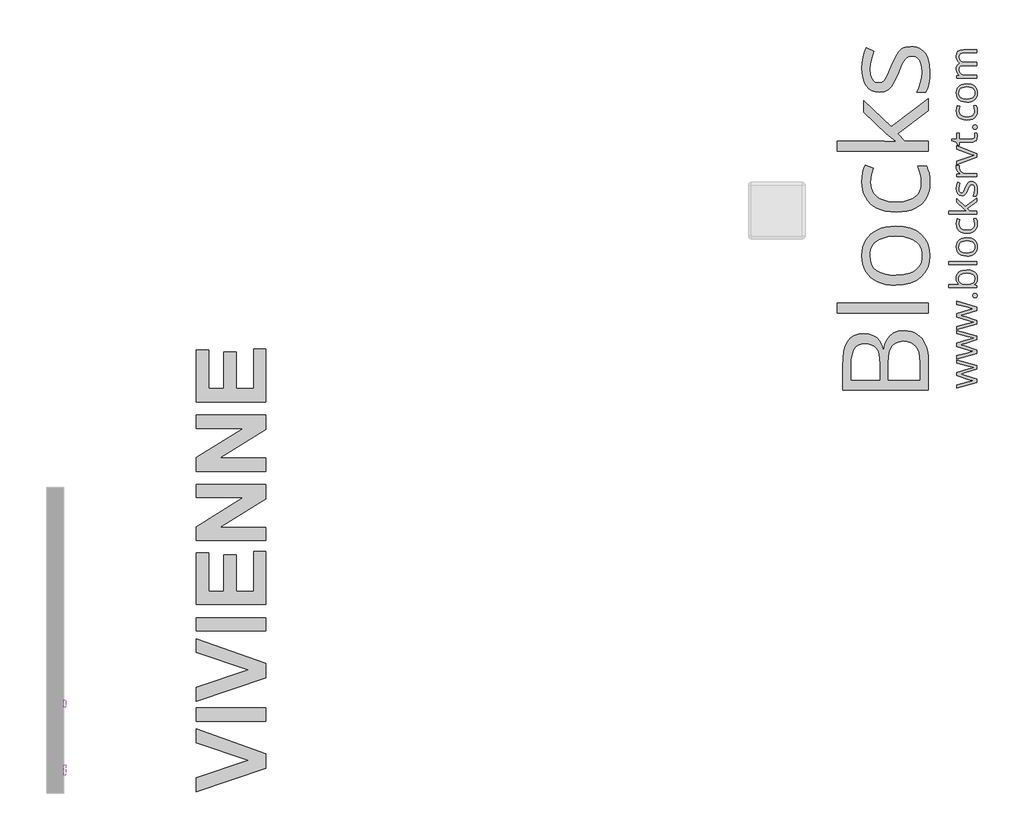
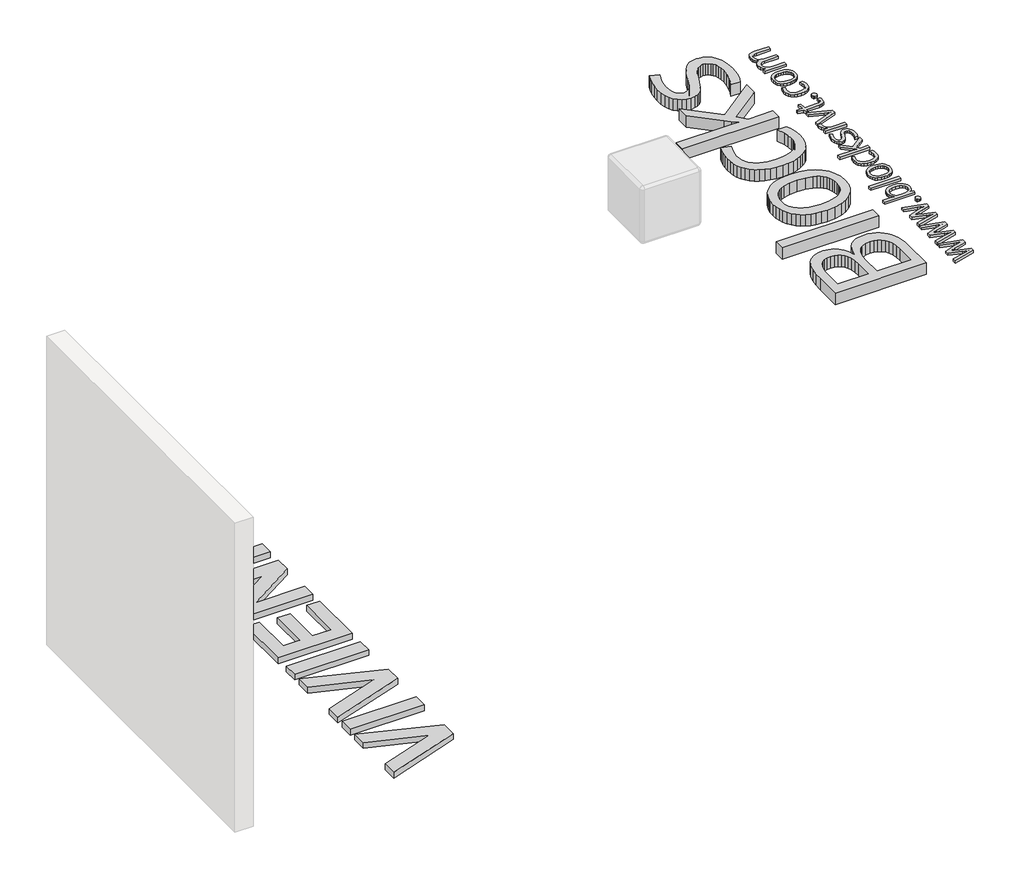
# One storey, part 6 of 6: 5 proxies.
"""IFC4 building model written with IfcOpenShell, lengths in millimetres."""

from ifc_helpers import new_model, si_unit, frame, origin, origin_with_axes, place, context, project, spatial, polyline, outline, extrude, element, save

model = new_model("IFC4")

# Units and contexts
model_context = context("Model", 3, world=origin())
ifc_project = project(units=[si_unit("LENGTHUNIT", "METRE", prefix="MILLI")], contexts=[model_context])

# Site, building, storey
site = spatial("IfcSite", under=ifc_project)
building = spatial("IfcBuilding", under=site)
storey = spatial("IfcBuildingStorey", under=building, Name="PORTOBELLO - SHOWROOM", Elevation=0.0)

# Proxies
placement = place(None, origin())
element("IfcBuildingElementProxy", 1, Name="10mm Arial", ObjectType="10mm Arial", at=placement, inside=storey, context=model_context, shape_type="SweptSolid", body=[
    extrude(outline(polyline([(1674.1140682, 2552.8620929), (1634.1375581, 2653.318403), (1647.5775136, 2653.318403), (1674.3347974, 2580.9437518), (1679.7549255, 2564.6343167), (1685.1014772, 2580.9437518), (1711.9323373, 2653.318403), (1725.3722929, 2653.318403), (1687.0880399, 2552.8620929), (1674.1140682, 2552.8620929)])), frame((-9940.3623775, 0.0, 0.0), z_axis=(1.0, 0.0, 0.0), x_axis=(0.0, 1.0, 0.0)), (0.0, 0.0, 1.0), 20.0),
    extrude(outline(polyline([(-9920.3623775, 1748.0338238), (-9920.3623775, 1735.476785), (-9940.3623775, 1735.476785), (-9940.3623775, 1748.0338238), (-9920.3623775, 1748.0338238)])), frame((0.0, 0.0, 2552.8620929), z_axis=(0.0, 0.0, 1.0), x_axis=(1.0, 0.0, 0.0)), (0.0, 0.0, 1.0), 73.7726028),
    extrude(outline(polyline([(-9920.3623775, 1748.0338238), (-9920.3623775, 1735.476785), (-9940.3623775, 1735.476785), (-9940.3623775, 1748.0338238), (-9920.3623775, 1748.0338238)])), frame((0.0, 0.0, 2640.7613643), z_axis=(0.0, 0.0, 1.0), x_axis=(1.0, 0.0, 0.0)), (0.0, 0.0, 1.0), 12.5570388),
    extrude(outline(polyline([(1784.9691761, 2552.8620929), (1759.0212327, 2626.6346956), (1772.3140355, 2626.6346956), (1788.0348594, 2582.4398053), (1792.7682744, 2567.5773727), (1797.4035875, 2581.6059394), (1813.2225133, 2626.6346956), (1826.5153161, 2626.6346956), (1800.8862038, 2552.8620929), (1784.9691761, 2552.8620929)])), frame((-9940.3623775, 0.0, 0.0), z_axis=(1.0, 0.0, 0.0), x_axis=(0.0, 1.0, 0.0)), (0.0, 0.0, 1.0), 20.0),
    extrude(outline(polyline([(-9920.3623775, 1850.0597638), (-9920.3623775, 1837.502725), (-9940.3623775, 1837.502725), (-9940.3623775, 1850.0597638), (-9920.3623775, 1850.0597638)])), frame((0.0, 0.0, 2640.7613643), z_axis=(0.0, 0.0, 1.0), x_axis=(1.0, 0.0, 0.0)), (0.0, 0.0, 1.0), 12.5570388),
    extrude(outline(polyline([(-9920.3623775, 1850.0597638), (-9920.3623775, 1837.502725), (-9940.3623775, 1837.502725), (-9940.3623775, 1850.0597638), (-9920.3623775, 1850.0597638)])), frame((0.0, 0.0, 2552.8620929), z_axis=(0.0, 0.0, 1.0), x_axis=(1.0, 0.0, 0.0)), (0.0, 0.0, 1.0), 73.7726028),
    extrude(outline(polyline([(1920.5459541, 2574.8369107), (1932.8577382, 2573.2672809), (1928.4216944, 2563.9905232), (1921.3430317, 2557.0559476), (1911.7811655, 2552.7333342), (1899.8955114, 2551.292463), (1885.1618375, 2553.7787322), (1873.8249407, 2561.2375396), (1866.5960595, 2573.1845074), (1864.1864324, 2589.1352576), (1866.6205849, 2605.6225024), (1873.9230425, 2617.9526806), (1885.1066552, 2625.6414143), (1899.1842729, 2628.2043255), (1912.8234979, 2625.6475456), (1923.722002, 2617.977206), (1930.8681097, 2605.6715533), (1933.2501456, 2589.208834), (1933.1765692, 2585.8243196), (1876.7434712, 2585.8243196), (1878.9170406, 2576.4249347), (1883.966221, 2569.5148845), (1891.2533502, 2565.2658475), (1900.1407661, 2563.8495018), (1912.4525502, 2566.4737267), (1920.5459541, 2574.8369107)]), holes=[polyline([(1876.7434712, 2598.3813584), (1920.6931069, 2598.3813584), (1915.6653863, 2609.7611748), (1908.3445346, 2614.1757587), (1899.1352219, 2615.6472867), (1883.6719154, 2610.9506599), (1878.806676, 2605.4600211), (1876.7434712, 2598.3813584)])]), frame((-9940.3623775, 0.0, 0.0), z_axis=(1.0, 0.0, 0.0), x_axis=(0.0, 1.0, 0.0)), (0.0, 0.0, 1.0), 20.0),
    extrude(outline(polyline([(1945.8071844, 2552.8620929), (1945.8071844, 2626.6346956), (1958.3642232, 2626.6346956), (1958.3642232, 2616.3339998), (1967.9659432, 2625.2367441), (1981.074805, 2628.2043255), (1992.932868, 2625.8130925), (2001.0262719, 2619.5345731), (2004.790931, 2610.3007351), (2005.4531186, 2598.1606292), (2005.4531186, 2552.8620929), (1992.8960798, 2552.8620929), (1992.8960798, 2596.468372), (1991.4490773, 2607.5784083), (1986.3355175, 2613.4522575), (1977.7148161, 2615.6472867), (1964.0909196, 2610.717668), (1959.7958973, 2603.5746259), (1958.3642232, 2592.0047372), (1958.3642232, 2552.8620929), (1945.8071844, 2552.8620929)])), frame((-9940.3623775, 0.0, 0.0), z_axis=(1.0, 0.0, 0.0), x_axis=(0.0, 1.0, 0.0)), (0.0, 0.0, 1.0), 20.0),
    extrude(outline(polyline([(2022.7190469, 2552.8620929), (2022.7190469, 2626.6346956), (2035.2760856, 2626.6346956), (2035.2760856, 2616.3339998), (2044.8778057, 2625.2367441), (2057.9866675, 2628.2043255), (2069.8447304, 2625.8130925), (2077.9381343, 2619.5345731), (2081.7027934, 2610.3007351), (2082.364981, 2598.1606292), (2082.364981, 2552.8620929), (2069.8079422, 2552.8620929), (2069.8079422, 2596.468372), (2068.3609397, 2607.5784083), (2063.24738, 2613.4522575), (2054.6266786, 2615.6472867), (2041.002782, 2610.717668), (2036.7077597, 2603.5746259), (2035.2760856, 2592.0047372), (2035.2760856, 2552.8620929), (2022.7190469, 2552.8620929)])), frame((-9940.3623775, 0.0, 0.0), z_axis=(1.0, 0.0, 0.0), x_axis=(0.0, 1.0, 0.0)), (0.0, 0.0, 1.0), 20.0),
    extrude(outline(polyline([(2151.2815414, 2574.8369107), (2163.5933255, 2573.2672809), (2159.1572818, 2563.9905232), (2152.0786191, 2557.0559476), (2142.5167529, 2552.7333342), (2130.6310988, 2551.292463), (2115.8974249, 2553.7787322), (2104.5605281, 2561.2375396), (2097.3316468, 2573.1845074), (2094.9220198, 2589.1352576), (2097.3561723, 2605.6225024), (2104.6586299, 2617.9526806), (2115.8422426, 2625.6414143), (2129.9198603, 2628.2043255), (2143.5590852, 2625.6475456), (2154.4575893, 2617.977206), (2161.6036971, 2605.6715533), (2163.985733, 2589.208834), (2163.9121566, 2585.8243196), (2107.4790585, 2585.8243196), (2109.652628, 2576.4249347), (2114.7018084, 2569.5148845), (2121.9889376, 2565.2658475), (2130.8763534, 2563.8495018), (2143.1881375, 2566.4737267), (2151.2815414, 2574.8369107)]), holes=[polyline([(2107.4790585, 2598.3813584), (2151.4286942, 2598.3813584), (2146.4009736, 2609.7611748), (2139.0801219, 2614.1757587), (2129.8708093, 2615.6472867), (2114.4075028, 2610.9506599), (2109.5422634, 2605.4600211), (2107.4790585, 2598.3813584)])]), frame((-9940.3623775, 0.0, 0.0), z_axis=(1.0, 0.0, 0.0), x_axis=(0.0, 1.0, 0.0)), (0.0, 0.0, 1.0), 20.0),
])
element("IfcBuildingElementProxy", 2, Name="10mm Arial Narrow", ObjectType="10mm Arial Narrow", at=placement, inside=storey, context=model_context, shape_type="SweptSolid", body=[
    extrude(outline(polyline([(2234.5067609, 2552.8620929), (2234.5067609, 2653.5806966), (2265.8036456, 2653.5806966), (2282.0993471, 2651.7023759), (2293.5723332, 2642.2219327), (2297.8620117, 2625.2028239), (2296.0757033, 2613.1269984), (2290.7167781, 2603.5006046), (2280.9729893, 2597.1993462), (2266.03209, 2595.0989267), (2244.2537226, 2595.0989267), (2244.2537226, 2552.8620929), (2234.5067609, 2552.8620929)]), holes=[polyline([(2244.2537226, 2606.470382), (2267.2250775, 2606.470382), (2283.0892729, 2611.0011962), (2288.11505, 2624.6697869), (2285.6402355, 2634.8355633), (2279.6626067, 2640.6355132), (2266.9966331, 2642.2092414), (2244.2537226, 2642.2092414), (2244.2537226, 2606.470382)])]), frame((-9940.3623775, 0.0, 0.0), z_axis=(1.0, 0.0, 0.0), x_axis=(0.0, 1.0, 0.0)), (0.0, 0.0, 1.0), 20.0),
    extrude(outline(polyline([(2305.9844797, 2589.4131991), (2307.9389486, 2606.0039746), (2313.8023552, 2617.9560594), (2322.6609219, 2625.180614), (2333.6008711, 2627.5887989), (2344.4139067, 2625.180614), (2353.2978561, 2617.9560594), (2359.2374108, 2606.194345), (2361.2172624, 2590.1746805), (2359.2723121, 2573.0127939), (2353.437461, 2560.8703387), (2344.5884128, 2553.6457841), (2333.6008711, 2551.2375993), (2322.7402429, 2553.6521298), (2313.865812, 2560.8957214), (2307.9548128, 2572.8541519), (2305.9844797, 2589.4131991)]), holes=[polyline([(2315.7314414, 2589.4385818), (2317.0354782, 2576.8868304), (2320.9475888, 2568.0155723), (2326.7887856, 2562.7423138), (2333.8800809, 2560.9845609), (2340.6001541, 2562.758178), (2346.2922274, 2568.0790291), (2350.1757824, 2576.9661514), (2351.4703008, 2589.4385818), (2350.1662639, 2601.9522591), (2346.2541533, 2610.8108258), (2340.4129566, 2616.0840844), (2333.3216612, 2617.8418372), (2326.5539955, 2616.0745659), (2320.8714407, 2610.7727518), (2317.0164412, 2601.9046665), (2315.7314414, 2589.4385818)])]), frame((-9940.3623775, 0.0, 0.0), z_axis=(1.0, 0.0, 0.0), x_axis=(0.0, 1.0, 0.0)), (0.0, 0.0, 1.0), 20.0),
    extrude(outline(polyline([(2432.6949812, 2560.9845609), (2434.3194748, 2551.2375993), (2426.9584882, 2551.2375993), (2418.6837238, 2553.3570558), (2414.3686627, 2559.1570056), (2413.2010579, 2573.8028308), (2413.2010579, 2616.2173436), (2405.0785899, 2616.2173436), (2405.0785899, 2619.4663308), (2403.4540963, 2614.59285), (2395.8900479, 2616.2173436), (2389.8108882, 2613.8948254), (2385.9400245, 2607.4095423), (2383.960173, 2592.0022358), (2383.960173, 2552.8620929), (2374.2132113, 2552.8620929), (2374.2132113, 2625.9643053), (2383.960173, 2625.9643053), (2383.960173, 2616.2681091), (2390.2043203, 2625.3551202), (2396.6007638, 2627.5887989), (2405.0785899, 2625.9643053), (2413.2010579, 2625.9643053), (2413.2010579, 2642.2092414), (2422.9480196, 2650.3317094), (2422.9480196, 2625.9643053), (2432.6949812, 2625.9643053), (2432.6949812, 2616.2173436), (2422.9480196, 2616.2173436), (2422.9480196, 2571.5691521), (2423.8110318, 2563.5735976), (2428.4306855, 2560.9845609), (2432.6949812, 2560.9845609)])), frame((-9940.3623775, 0.0, 0.0), z_axis=(1.0, 0.0, 0.0), x_axis=(0.0, 1.0, 0.0)), (0.0, 0.0, 1.0), 20.0),
    extrude(outline(polyline([(2439.1929557, 2589.4131991), (2441.1474245, 2606.0039746), (2447.0108312, 2617.9560594), (2455.8693979, 2625.180614), (2466.809347, 2627.5887989), (2477.6223826, 2625.180614), (2486.506332, 2617.9560594), (2492.4458868, 2606.194345), (2494.4257384, 2590.1746805), (2492.480788, 2573.0127939), (2486.6459369, 2560.8703387), (2477.7968887, 2553.6457841), (2466.809347, 2551.2375993), (2455.9487188, 2553.6521298), (2447.0742879, 2560.8957214), (2441.1632887, 2572.8541519), (2439.1929557, 2589.4131991)]), holes=[polyline([(2448.9399173, 2589.4385818), (2450.2439542, 2576.8868304), (2454.1560648, 2568.0155723), (2459.9972615, 2562.7423138), (2467.0885568, 2560.9845609), (2473.80863, 2562.758178), (2479.5007033, 2568.0790291), (2483.3842584, 2576.9661514), (2484.6787767, 2589.4385818), (2483.3747398, 2601.9522591), (2479.4626293, 2610.8108258), (2473.6214325, 2616.0840844), (2466.5301372, 2617.8418372), (2459.7624714, 2616.0745659), (2454.0799166, 2610.7727518), (2450.2249171, 2601.9046665), (2448.9399173, 2589.4385818)])]), frame((-9940.3623775, 0.0, 0.0), z_axis=(1.0, 0.0, 0.0), x_axis=(0.0, 1.0, 0.0)), (0.0, 0.0, 1.0), 20.0),
    extrude(outline(polyline([(2517.1686489, 2552.8620929), (2507.4216872, 2552.8620929), (2507.4216872, 2653.5806966), (2517.1686489, 2653.5806966), (2517.1686489, 2618.1718125), (2524.5677096, 2625.2535893), (2533.768943, 2627.5887989), (2546.6506696, 2623.3879599), (2555.9280511, 2610.6585296), (2559.4054827, 2589.9716188), (2557.4732237, 2573.5172753), (2551.6764467, 2561.3145362), (2543.3033244, 2553.7568335), (2533.6420294, 2551.2375993), (2524.3011911, 2553.8520187), (2517.1686489, 2561.6191287), (2517.1686489, 2552.8620929)]), holes=[polyline([(2517.1686489, 2589.9716188), (2519.2500313, 2572.7240655), (2525.1388207, 2563.9924124), (2533.591264, 2560.9845609), (2539.5339916, 2562.7740422), (2544.7723489, 2568.1424859), (2549.6585211, 2589.5654954), (2544.9500279, 2611.0011962), (2539.7053249, 2616.131677), (2533.3882023, 2617.8418372), (2527.4105734, 2616.052356), (2522.1182779, 2610.6839123), (2517.1686489, 2589.9716188)])]), frame((-9940.3623775, 0.0, 0.0), z_axis=(1.0, 0.0, 0.0), x_axis=(0.0, 1.0, 0.0)), (0.0, 0.0, 1.0), 20.0),
    extrude(outline(polyline([(2611.3892782, 2575.6050034), (2621.1362399, 2573.9805098), (2617.4367095, 2564.0939432), (2611.6177226, 2556.9740923), (2603.9140693, 2552.6717225), (2594.5605397, 2551.2375993), (2582.9669857, 2553.6521298), (2573.8228635, 2560.8957214), (2567.8833087, 2572.7018556), (2565.9034572, 2588.804014), (2567.8928273, 2605.4709377), (2573.8609376, 2617.6514669), (2582.8749734, 2625.1044659), (2594.00212, 2627.5887989), (2604.6850692, 2625.1901325), (2613.4325866, 2617.9941335), (2619.2674376, 2606.2546289), (2621.212388, 2590.2254459), (2621.1362399, 2586.9764587), (2575.6504188, 2586.9764587), (2581.6534303, 2567.5333008), (2587.5834666, 2562.6217459), (2594.6874533, 2560.9845609), (2604.8659211, 2564.6396715), (2611.3892782, 2575.6050034)]), holes=[polyline([(2576.3103693, 2596.7234203), (2611.3892782, 2596.7234203), (2607.1249825, 2610.9885048), (2601.2996499, 2616.1285041), (2594.0782682, 2617.8418372), (2581.8691834, 2612.1307269), (2576.3103693, 2596.7234203)])]), frame((-9940.3623775, 0.0, 0.0), z_axis=(1.0, 0.0, 0.0), x_axis=(0.0, 1.0, 0.0)), (0.0, 0.0, 1.0), 20.0),
    extrude(outline(polyline([(-9920.3623775, 2643.8791504), (-9920.3623775, 2634.1321887), (-9940.3623775, 2634.1321887), (-9940.3623775, 2643.8791504), (-9920.3623775, 2643.8791504)])), frame((0.0, 0.0, 2552.8620929), z_axis=(0.0, 0.0, 1.0), x_axis=(1.0, 0.0, 0.0)), (0.0, 0.0, 1.0), 100.7186038),
    extrude(outline(polyline([(-9920.3623775, 2669.8710481), (-9920.3623775, 2660.1240865), (-9940.3623775, 2660.1240865), (-9940.3623775, 2669.8710481), (-9920.3623775, 2669.8710481)])), frame((0.0, 0.0, 2552.8620929), z_axis=(0.0, 0.0, 1.0), x_axis=(1.0, 0.0, 0.0)), (0.0, 0.0, 1.0), 100.7186038),
    extrude(outline(polyline([(2681.2425034, 2589.4131991), (2683.1969723, 2606.0039746), (2689.0603789, 2617.9560594), (2697.9189456, 2625.180614), (2708.8588947, 2627.5887989), (2719.6719303, 2625.180614), (2728.5558797, 2617.9560594), (2734.4954345, 2606.194345), (2736.4752861, 2590.1746805), (2734.5303357, 2573.0127939), (2728.6954847, 2560.8703387), (2719.8464365, 2553.6457841), (2708.8588947, 2551.2375993), (2697.9982666, 2553.6521298), (2689.1238357, 2560.8957214), (2683.2128365, 2572.8541519), (2681.2425034, 2589.4131991)]), holes=[polyline([(2690.989465, 2589.4385818), (2692.2935019, 2576.8868304), (2696.2056125, 2568.0155723), (2702.0468092, 2562.7423138), (2709.1381046, 2560.9845609), (2715.8581777, 2562.758178), (2721.5502511, 2568.0790291), (2725.4338061, 2576.9661514), (2726.7283244, 2589.4385818), (2725.4242876, 2601.9522591), (2721.512177, 2610.8108258), (2715.6709802, 2616.0840844), (2708.5796849, 2617.8418372), (2701.8120191, 2616.0745659), (2696.1294644, 2610.7727518), (2692.2744649, 2601.9046665), (2690.989465, 2589.4385818)])]), frame((-9940.3623775, 0.0, 0.0), z_axis=(1.0, 0.0, 0.0), x_axis=(0.0, 1.0, 0.0)), (0.0, 0.0, 1.0), 20.0),
])
element("IfcBuildingElementProxy", 3, Name="25mm OpenSans", ObjectType="25mm OpenSans", at=placement, inside=storey, context=model_context, shape_type="SweptSolid", body=[
    extrude(outline(polyline([(-1887.4795433, 5216.9769538), (-1990.7699491, 5185.4201607), (-2003.8499026, 5181.4849311), (-2016.1428101, 5178.1118773), (-2027.1239744, 5175.3384774), (-2035.9688713, 5173.3521234), (-2027.1239744, 5170.4288101), (-2016.0303749, 5167.7678453), (-2003.4751188, 5164.4322698), (-1990.3202086, 5160.3846051), (-1887.4795433, 5127.4036338), (-1887.4795433, 5097.1960622), (-2064.9771347, 5048.399216), (-2064.9771347, 5076.2081714), (-1967.0086584, 5101.6934674), (-1947.8197296, 5106.6406131), (-1930.0175007, 5110.6882778), (-1915.513369, 5113.1618507), (-1925.2202685, 5116.6848181), (-1937.2883058, 5119.4207396), (-1950.1059106, 5122.7188367), (-1962.1364694, 5126.2792825), (-2064.9771347, 5158.9604268), (-2064.9771347, 5187.8937335), (-1962.2863829, 5219.3755699), (-1946.0957243, 5224.1353237), (-1929.8301088, 5228.445337), (-1915.813196, 5231.1437801), (-1929.4178467, 5234.8916178), (-1947.2575539, 5239.0142392), (-1967.0086584, 5243.9613849), (-2064.9771347, 5269.8214647), (-2064.9771347, 5297.1057229), (-1887.4795433, 5248.1589631), (-1887.4795433, 5216.9769538)])), origin_with_axes(), (0.0, 0.0, 1.0), 20.0),
    extrude(outline(polyline([(-1887.4795433, 5476.0274926), (-1990.7699491, 5444.4706995), (-2003.8499026, 5440.53547), (-2016.1428101, 5437.1624161), (-2027.1239744, 5434.3890162), (-2035.9688713, 5432.4026623), (-2027.1239744, 5429.4793489), (-2016.0303749, 5426.8183841), (-2003.4751188, 5423.4828086), (-1990.3202086, 5419.435144), (-1887.4795433, 5386.4541726), (-1887.4795433, 5356.2466011), (-2064.9771347, 5307.4497548), (-2064.9771347, 5335.2587102), (-1967.0086584, 5360.7440063), (-1947.8197296, 5365.691152), (-1930.0175007, 5369.7388166), (-1915.513369, 5372.2123895), (-1925.2202685, 5375.7353569), (-1937.2883058, 5378.4712784), (-1950.1059106, 5381.7693755), (-1962.1364694, 5385.3298213), (-2064.9771347, 5418.0109657), (-2064.9771347, 5446.9442724), (-1962.2863829, 5478.4261087), (-1946.0957243, 5483.1858625), (-1929.8301088, 5487.4958758), (-1915.813196, 5490.1943189), (-1929.4178467, 5493.9421566), (-1947.2575539, 5498.064778), (-1967.0086584, 5503.0119237), (-2064.9771347, 5528.8720035), (-2064.9771347, 5556.1562617), (-1887.4795433, 5507.2095019), (-1887.4795433, 5476.0274926)])), origin_with_axes(), (0.0, 0.0, 1.0), 20.0),
    extrude(outline(polyline([(-1887.4795433, 5735.0780314), (-1990.7699491, 5703.5212383), (-2003.8499026, 5699.5860088), (-2016.1428101, 5696.2129549), (-2027.1239744, 5693.439555), (-2035.9688713, 5691.4532011), (-2027.1239744, 5688.5298877), (-2016.0303749, 5685.868923), (-2003.4751188, 5682.5333475), (-1990.3202086, 5678.4856828), (-1887.4795433, 5645.5047114), (-1887.4795433, 5615.2971399), (-2064.9771347, 5566.5002936), (-2064.9771347, 5594.309249), (-1967.0086584, 5619.7945451), (-1947.8197296, 5624.7416908), (-1930.0175007, 5628.7893555), (-1915.513369, 5631.2629283), (-1925.2202685, 5634.7858957), (-1937.2883058, 5637.5218172), (-1950.1059106, 5640.8199143), (-1962.1364694, 5644.3803601), (-2064.9771347, 5677.0615045), (-2064.9771347, 5705.9948112), (-1962.2863829, 5737.4766475), (-1946.0957243, 5742.2364013), (-1929.8301088, 5746.5464146), (-1915.813196, 5749.2448577), (-1929.4178467, 5752.9926954), (-1947.2575539, 5757.1153168), (-1967.0086584, 5762.0624625), (-2064.9771347, 5787.9225424), (-2064.9771347, 5815.2068005), (-1887.4795433, 5766.2600407), (-1887.4795433, 5735.0780314)])), origin_with_axes(), (0.0, 0.0, 1.0), 20.0),
    extrude(outline(polyline([(-1903.970029, 5845.8641125), (-1913.6488198, 5847.2414429), (-1920.0482526, 5851.3734339), (-1924.8080064, 5864.8281711), (-1920.0482526, 5878.7326488), (-1913.6488198, 5882.9770749), (-1903.970029, 5884.3918836), (-1894.3755646, 5882.9770749), (-1887.7793703, 5878.7326488), (-1882.6823111, 5864.8281711), (-1887.7793703, 5851.3734339), (-1894.3755646, 5847.2414429), (-1903.970029, 5845.8641125)])), origin_with_axes(), (0.0, 0.0, 1.0), 20.0),
    extrude(outline(polyline([(-2136.9356177, 5963.0964744), (-2076.6703882, 5963.0964744), (-2056.5445, 5962.5342988), (-2041.3657575, 5961.6722961), (-2052.365661, 5971.9882193), (-2061.5291241, 5984.1218437), (-2067.7130562, 5999.7784355), (-2069.7743669, 6019.2390825), (-2068.3056831, 6035.0362182), (-2063.8996314, 6049.146827), (-2056.556212, 6061.5709088), (-2046.2754248, 6072.3084637), (-2033.0994331, 6080.9659687), (-2017.0703999, 6087.1499009), (-1976.4532093, 6092.0970466), (-1948.3444269, 6089.8296048), (-1925.0328766, 6083.0272794), (-1906.6684721, 6072.1117023), (-1893.4011268, 6057.504505), (-1885.362015, 6039.542993), (-1882.6823111, 6018.5644717), (-1884.6405563, 5999.4411301), (-1890.5152918, 5984.0468869), (-1899.2196448, 5972.0819152), (-1909.6667422, 5963.2463879), (-1909.6667422, 5961.1475988), (-1887.4795433, 5955.6757559), (-1887.4795433, 5936.2619568), (-2136.9356177, 5936.2619568), (-2136.9356177, 5963.0964744)]), holes=[polyline([(-2047.3622977, 6014.8166341), (-2045.4321614, 5997.59532), (-2039.6417522, 5984.3092356), (-2029.972331, 5974.5835968), (-2016.4051587, 5968.0436201), (-1977.1278201, 5963.0964744), (-1945.3367871, 5965.8886135), (-1923.1214794, 5974.2650306), (-1915.1690364, 5980.9877144), (-1909.48872, 5989.9872096), (-1904.9444668, 6014.8166341), (-1909.5917855, 6036.4603965), (-1923.5337416, 6051.9202269), (-1946.1144635, 6061.1961251), (-1976.6780795, 6064.2880911), (-2007.4853051, 6061.2429731), (-2029.5975473, 6052.1076188), (-2042.9211101, 6036.6946364), (-2047.3622977, 6014.8166341)])]), origin_with_axes(), (0.0, 0.0, 1.0), 20.0),
    extrude(outline(polyline([(-1887.4795433, 6164.7301403), (-1887.4795433, 6137.7457092), (-2136.9356177, 6137.7457092), (-2136.9356177, 6164.7301403), (-1887.4795433, 6164.7301403)])), origin_with_axes(), (0.0, 0.0, 1.0), 20.0),
    extrude(outline(polyline([(-1976.528166, 6376.8577517), (-1936.8760436, 6371.1985168), (-1920.7697113, 6364.2837564), (-1907.3805613, 6354.8579447), (-1896.7741807, 6343.0709952), (-1889.0161568, 6329.0728216), (-1884.2657725, 6312.9852284), (-1882.6823111, 6294.9300205), (-1884.2657725, 6277.905468), (-1889.0161568, 6262.3613113), (-1896.7741807, 6248.5692687), (-1907.3805613, 6236.8010585), (-1920.7697113, 6227.2628116), (-1936.8760436, 6220.1606593), (-1955.521536, 6215.7475804), (-1976.528166, 6214.2765542), (-2003.9998161, 6216.7407574), (-2027.0490176, 6224.1333672), (-2045.4134222, 6236.1077085), (-2058.830681, 6252.3171064), (-2067.0384454, 6272.4148858), (-2069.7743669, 6296.0543718), (-2067.0197063, 6318.7568984), (-2058.7557242, 6338.4424157), (-2045.2822478, 6354.6049656), (-2026.8991041, 6366.73859), (-2003.8873809, 6374.3279613), (-1976.528166, 6376.8577517)]), holes=[polyline([(-1976.6031228, 6242.0855096), (-1956.1586684, 6243.5003183), (-1938.600049, 6247.7447444), (-1924.3207875, 6254.9312231), (-1913.7144069, 6265.1721895), (-1907.1369518, 6278.6456659), (-1904.9444668, 6295.5296746), (-1907.1369518, 6312.3293569), (-1913.7144069, 6325.8496812), (-1924.3207875, 6336.1749739), (-1938.600049, 6343.3895614), (-1956.1586684, 6347.6339876), (-1976.6031228, 6349.0487963), (-1996.8133374, 6347.6339876), (-2014.1189777, 6343.3895614), (-2028.1639994, 6336.1937131), (-2038.5923576, 6325.924638), (-2045.0573776, 6312.3855744), (-2047.2123842, 6295.3797611), (-2042.5275872, 6271.4779264), (-2028.473196, 6254.9405927), (-2006.1360835, 6245.2992804), (-1976.6031228, 6242.0855096)])]), origin_with_axes(), (0.0, 0.0, 1.0), 20.0),
    extrude(outline(polyline([(-1882.6823111, 6496.5636865), (-1885.1933623, 6474.0672909), (-1892.726516, 6454.4005128), (-1905.4035769, 6438.1630062), (-1923.3463497, 6425.954425), (-1946.6110519, 6418.3088362), (-1975.2539012, 6415.7603066), (-2005.0304714, 6418.4493801), (-2028.8479797, 6426.5166007), (-2046.987514, 6439.3060967), (-2059.730162, 6456.1619965), (-2067.2633157, 6476.3441023), (-2069.7743669, 6499.1122161), (-2067.1134022, 6524.7474256), (-2060.4047728, 6545.0607057), (-2037.9927036, 6536.9653764), (-2043.801852, 6518.3011449), (-2046.38786, 6498.512562), (-2044.354658, 6481.6285534), (-2038.2550522, 6467.85525), (-2028.2202169, 6457.1832823), (-2014.3813264, 6449.6032806), (-1996.8039678, 6445.0777666), (-1975.5537282, 6443.569262), (-1955.128013, 6445.0402883), (-1937.9254382, 6449.4533671), (-1924.1802436, 6456.7991289), (-1914.1266691, 6467.0682041), (-1907.9708457, 6480.2699622), (-1905.9189046, 6496.4137729), (-1908.9171747, 6521.7491555), (-1915.9631095, 6542.2873059), (-1892.0519053, 6542.2873059), (-1885.1184056, 6522.498723), (-1882.6823111, 6496.5636865)])), origin_with_axes(), (0.0, 0.0, 1.0), 20.0),
    extrude(outline(polyline([(-2136.9356177, 6610.572908), (-2008.0849591, 6610.572908), (-1992.5689112, 6610.0856891), (-1976.3782525, 6609.2986432), (-1988.8585519, 6620.3547643), (-2002.1633756, 6631.4108853), (-2064.9771347, 6690.2519365), (-2064.9771347, 6721.8087296), (-1989.1958573, 6650.5248574), (-1887.4795433, 6726.9807456), (-1887.4795433, 6694.5994282), (-1971.5060636, 6632.0854961), (-1951.7924375, 6610.572908), (-1887.4795433, 6610.572908), (-1887.4795433, 6583.8883039), (-2136.9356177, 6583.8883039), (-2136.9356177, 6610.572908)])), origin_with_axes(), (0.0, 0.0, 1.0), 20.0),
    extrude(outline(polyline([(-1935.3769086, 6871.1975386), (-1919.4485985, 6869.0800103), (-1906.2936884, 6862.7274255), (-1895.9871348, 6852.4302415), (-1888.6038946, 6838.4789159), (-1884.162707, 6821.1920147), (-1882.6823111, 6800.8881042), (-1885.6056245, 6768.7316571), (-1893.8508673, 6744.9703663), (-1918.5865959, 6744.9703663), (-1908.842218, 6770.8679245), (-1904.4947263, 6801.5627149), (-1906.4154931, 6821.3512978), (-1912.1777935, 6834.8435133), (-1921.238191, 6842.6015373), (-1933.0532492, 6845.1875453), (-1946.1332026, 6841.0649238), (-1957.1518454, 6827.2354029), (-1968.957534, 6800.4383636), (-1982.0749658, 6771.0553164), (-1997.9657974, 6751.9788227), (-2008.7408307, 6746.9473507), (-2022.3267422, 6745.2701933), (-2042.5931743, 6749.8238161), (-2057.5189378, 6763.4846844), (-2066.7105096, 6784.5287928), (-2069.7743669, 6811.2321361), (-2066.6261833, 6841.2523157), (-2058.1560702, 6867.2997874), (-2036.643482, 6858.3049771), (-2044.5888979, 6834.8435133), (-2047.8120383, 6809.433174), (-2046.2379465, 6793.0082755), (-2041.515671, 6780.9121295), (-2034.0574741, 6773.4633021), (-2024.2756178, 6770.9803597), (-2010.3336617, 6775.5902), (-2000.0271081, 6790.3941587), (-1988.7461168, 6817.2286764), (-1975.8535553, 6845.9745912), (-1959.700375, 6864.6388227), (-1948.8784937, 6869.5578596), (-1935.3769086, 6871.1975386)])), origin_with_axes(), (0.0, 0.0, 1.0), 20.0),
    extrude(outline(polyline([(-2069.7743669, 6995.4008785), (-2069.2121913, 7006.5694348), (-2067.6755778, 7016.9134667), (-2042.7899358, 7013.5404128), (-2044.5888979, 7003.7960349), (-2045.2635087, 6993.8267867), (-2040.916017, 6973.6634201), (-2028.473196, 6957.0979777), (-2009.0219185, 6945.9294215), (-1983.7240143, 6941.8817568), (-1887.4795433, 6941.8817568), (-1887.4795433, 6914.8973257), (-2064.9771347, 6914.8973257), (-2064.9771347, 6937.2344381), (-2033.9450389, 6940.1577515), (-2051.9346597, 6954.5119697), (-2064.9396564, 6972.5390688), (-2069.7743669, 6995.4008785)])), origin_with_axes(), (0.0, 0.0, 1.0), 20.0),
    extrude(outline(polyline([(-1887.4795433, 7088.1973389), (-2064.9771347, 7020.9611314), (-2064.9771347, 7049.7445246), (-1957.5641075, 7088.6470794), (-1933.2781195, 7096.9298007), (-1911.9154448, 7102.738949), (-1933.3905546, 7110.3470595), (-1957.5641075, 7118.5548239), (-2064.9771347, 7157.5323356), (-2064.9771347, 7186.3157288), (-1887.4795433, 7118.9296077), (-1887.4795433, 7088.1973389)])), origin_with_axes(), (0.0, 0.0, 1.0), 20.0),
    extrude(outline(polyline([(-1904.6446398, 7274.3899137), (-1905.7689911, 7287.957086), (-1908.5423909, 7299.2755557), (-1887.7044136, 7299.2755557), (-1884.1439678, 7286.2330807), (-1882.6823111, 7269.9674653), (-1887.6669352, 7244.4821692), (-1894.3943038, 7234.1568765), (-1904.6071614, 7226.1177647), (-1918.8395749, 7220.9457487), (-1937.6256112, 7219.2217434), (-2043.9892439, 7219.2217434), (-2043.9892439, 7194.0362743), (-2057.0317189, 7194.0362743), (-2067.6006211, 7219.4466137), (-2108.1522245, 7230.0904726), (-2108.1522245, 7246.2061745), (-2064.9771347, 7246.2061745), (-2064.9771347, 7298.1512044), (-2043.9892439, 7298.1512044), (-2043.9892439, 7246.2061745), (-1938.2252652, 7246.2061745), (-1923.4868936, 7248.1269413), (-1913.0023178, 7253.8892417), (-1906.7340593, 7262.8559433), (-1904.6446398, 7274.3899137)])), origin_with_axes(), (0.0, 0.0, 1.0), 20.0),
    extrude(outline(polyline([(-1903.970029, 7333.0060946), (-1913.6488198, 7334.383425), (-1920.0482526, 7338.515416), (-1924.8080064, 7351.9701532), (-1920.0482526, 7365.8746309), (-1913.6488198, 7370.119057), (-1903.970029, 7371.5338658), (-1894.3755646, 7370.119057), (-1887.7793703, 7365.8746309), (-1882.6823111, 7351.9701532), (-1887.7793703, 7338.515416), (-1894.3755646, 7334.383425), (-1903.970029, 7333.0060946)])), origin_with_axes(), (0.0, 0.0, 1.0), 20.0),
    extrude(outline(polyline([(-1882.6823111, 7494.3879841), (-1885.1933623, 7471.8915886), (-1892.726516, 7452.2248105), (-1905.4035769, 7435.9873039), (-1923.3463497, 7423.7787227), (-1946.6110519, 7416.1331339), (-1975.2539012, 7413.5846043), (-2005.0304714, 7416.2736778), (-2028.8479797, 7424.3408983), (-2046.987514, 7437.1303943), (-2059.730162, 7453.9862942), (-2067.2633157, 7474.1684), (-2069.7743669, 7496.9365137), (-2067.1134022, 7522.5717233), (-2060.4047728, 7542.8850034), (-2037.9927036, 7534.7896741), (-2043.801852, 7516.1254425), (-2046.38786, 7496.3368597), (-2044.354658, 7479.4528511), (-2038.2550522, 7465.6795477), (-2028.2202169, 7455.00758), (-2014.3813264, 7447.4275783), (-1996.8039678, 7442.9020643), (-1975.5537282, 7441.3935597), (-1955.128013, 7442.864586), (-1937.9254382, 7447.2776648), (-1924.1802436, 7454.6234266), (-1914.1266691, 7464.8925018), (-1907.9708457, 7478.0942599), (-1905.9189046, 7494.2380706), (-1908.9171747, 7519.5734532), (-1915.9631095, 7540.1116035), (-1892.0519053, 7540.1116035), (-1885.1184056, 7520.3230207), (-1882.6823111, 7494.3879841)])), origin_with_axes(), (0.0, 0.0, 1.0), 20.0),
    extrude(outline(polyline([(-1976.528166, 7734.4744644), (-1936.8760436, 7728.8152296), (-1920.7697113, 7721.9004691), (-1907.3805613, 7712.4746574), (-1896.7741807, 7700.6877079), (-1889.0161568, 7686.6895343), (-1884.2657725, 7670.6019412), (-1882.6823111, 7652.5467332), (-1884.2657725, 7635.5221807), (-1889.0161568, 7619.978024), (-1896.7741807, 7606.1859814), (-1907.3805613, 7594.4177712), (-1920.7697113, 7584.8795244), (-1936.8760436, 7577.777372), (-1955.521536, 7573.3642932), (-1976.528166, 7571.8932669), (-2003.9998161, 7574.3574701), (-2027.0490176, 7581.7500799), (-2045.4134222, 7593.7244212), (-2058.830681, 7609.9338191), (-2067.0384454, 7630.0315985), (-2069.7743669, 7653.6710845), (-2067.0197063, 7676.3736111), (-2058.7557242, 7696.0591284), (-2045.2822478, 7712.2216783), (-2026.8991041, 7724.3553027), (-2003.8873809, 7731.944674), (-1976.528166, 7734.4744644)]), holes=[polyline([(-1976.6031228, 7599.7022223), (-1956.1586684, 7601.117031), (-1938.600049, 7605.3614571), (-1924.3207875, 7612.5479359), (-1913.7144069, 7622.7889023), (-1907.1369518, 7636.2623786), (-1904.9444668, 7653.1463873), (-1907.1369518, 7669.9460696), (-1913.7144069, 7683.4663939), (-1924.3207875, 7693.7916867), (-1938.600049, 7701.0062741), (-1956.1586684, 7705.2507003), (-1976.6031228, 7706.665509), (-1996.8133374, 7705.2507003), (-2014.1189777, 7701.0062741), (-2028.1639994, 7693.8104258), (-2038.5923576, 7683.5413507), (-2045.0573776, 7670.0022871), (-2047.2123842, 7652.9964738), (-2042.5275872, 7629.0946391), (-2028.473196, 7612.5573054), (-2006.1360835, 7602.9159931), (-1976.6031228, 7599.7022223)])]), origin_with_axes(), (0.0, 0.0, 1.0), 20.0),
    extrude(outline(polyline([(-2069.7743669, 7975.5353825), (-2065.9140941, 8001.2268096), (-2054.3332758, 8019.6849101), (-2034.2261268, 8030.8159879), (-2004.786862, 8034.5263472), (-1887.4795433, 8034.5263472), (-1887.4795433, 8008.0666133), (-2003.6625107, 8008.0666133), (-2022.7390043, 8005.742954), (-2036.343655, 7998.771976), (-2044.4952019, 7987.228636), (-2047.2123842, 7971.1878908), (-2043.4458074, 7949.0006919), (-2032.1460769, 7933.8594277), (-2013.5193237, 7925.1457052), (-1987.771679, 7922.241131), (-1887.4795433, 7922.241131), (-1887.4795433, 7895.5565269), (-2003.6625107, 7895.5565269), (-2027.9110203, 7891.4339055), (-2042.3776737, 7879.140998), (-2047.2123842, 7858.5278908), (-2045.3665742, 7842.6557984), (-2039.8291441, 7830.2691949), (-2030.6750506, 7821.0869927), (-2017.9792505, 7814.8281038), (-1982.3747928, 7810.0308716), (-1887.4795433, 7810.0308716), (-1887.4795433, 7783.196354), (-2064.9771347, 7783.196354), (-2064.9771347, 7804.8588556), (-2041.515671, 7808.9065203), (-2057.0317189, 7823.7854358), (-2066.5512265, 7841.8874917), (-2069.7743669, 7863.2501663), (-2067.9004481, 7881.7925931), (-2062.2786916, 7897.0931403), (-2052.8154015, 7908.8894594), (-2039.4168819, 7916.9192015), (-2052.8154015, 7928.6686726), (-2062.2786916, 7942.2545841), (-2067.9004481, 7958.1828941), (-2069.7743669, 7975.5353825)])), origin_with_axes(), (0.0, 0.0, 1.0), 20.0),
])
element("IfcBuildingElementProxy", 4, Name="600mm Arial", ObjectType="600mm Arial", at=placement, inside=storey, context=model_context, shape_type="SweptSolid", body=[
    extrude(outline(polyline([(-8157.0633411, 1694.6763758), (-8769.2189811, 1488.347131), (-8769.2189811, 1611.3248266), (-8312.5314401, 1765.2746825), (-8769.2189811, 1919.6800113), (-8769.2189811, 2042.2022339), (-8157.0633411, 1824.9416384), (-8157.0633411, 1694.6763758)])), origin_with_axes(), (0.0, 0.0, 1.0), 50.0),
    extrude(outline(polyline([(-8157.0633411, 2110.2195272), (-8769.2189811, 2110.2195272), (-8769.2189811, 2226.8206015), (-8157.0633411, 2226.8206015), (-8157.0633411, 2110.2195272)])), origin_with_axes(), (0.0, 0.0, 1.0), 50.0),
    extrude(outline(polyline([(-8157.0633411, 2491.4503834), (-8769.2189811, 2285.1211386), (-8769.2189811, 2408.0988342), (-8312.5314401, 2562.04869), (-8769.2189811, 2716.4540189), (-8769.2189811, 2838.9762415), (-8157.0633411, 2621.715646), (-8157.0633411, 2491.4503834)])), origin_with_axes(), (0.0, 0.0, 1.0), 50.0),
    extrude(outline(polyline([(-8157.0633411, 2906.9935348), (-8769.2189811, 2906.9935348), (-8769.2189811, 3023.5946091), (-8157.0633411, 3023.5946091), (-8157.0633411, 2906.9935348)])), origin_with_axes(), (0.0, 0.0, 1.0), 50.0),
    extrude(outline(polyline([(-8157.0633411, 3140.1956834), (-8769.2189811, 3140.1956834), (-8769.2189811, 3596.8832243), (-8662.334663, 3596.8832243), (-8662.334663, 3256.7967576), (-8526.3000763, 3256.7967576), (-8526.3000763, 3577.4497119), (-8419.4157582, 3577.4497119), (-8419.4157582, 3256.7967576), (-8263.9476592, 3256.7967576), (-8263.9476592, 3606.5999805), (-8157.0633411, 3606.5999805), (-8157.0633411, 3140.1956834)])), origin_with_axes(), (0.0, 0.0, 1.0), 50.0),
    extrude(outline(polyline([(-8157.0633411, 3703.7675424), (-8769.2189811, 3703.7675424), (-8769.2189811, 3825.9861163), (-8357.1677889, 4082.7210338), (-8769.2189811, 4082.7210338), (-8769.2189811, 4199.3221081), (-8157.0633411, 4199.3221081), (-8157.0633411, 4073.3079262), (-8563.0415607, 3820.3686167), (-8157.0633411, 3820.3686167), (-8157.0633411, 3703.7675424)])), origin_with_axes(), (0.0, 0.0, 1.0), 50.0),
    extrude(outline(polyline([(-8157.0633411, 4315.9231824), (-8769.2189811, 4315.9231824), (-8769.2189811, 4438.1417563), (-8357.1677889, 4694.8766738), (-8769.2189811, 4694.8766738), (-8769.2189811, 4811.477748), (-8157.0633411, 4811.477748), (-8157.0633411, 4685.4635662), (-8563.0415607, 4432.5242566), (-8157.0633411, 4432.5242566), (-8157.0633411, 4315.9231824)])), origin_with_axes(), (0.0, 0.0, 1.0), 50.0),
    extrude(outline(polyline([(-8157.0633411, 4928.0788223), (-8769.2189811, 4928.0788223), (-8769.2189811, 5384.7663633), (-8662.334663, 5384.7663633), (-8662.334663, 5044.6798966), (-8526.3000763, 5044.6798966), (-8526.3000763, 5365.3328509), (-8419.4157582, 5365.3328509), (-8419.4157582, 5044.6798966), (-8263.9476592, 5044.6798966), (-8263.9476592, 5394.4831195), (-8157.0633411, 5394.4831195), (-8157.0633411, 4928.0788223)])), origin_with_axes(), (0.0, 0.0, 1.0), 50.0),
])
element("IfcBuildingElementProxy", 5, Name="80mm OpenSans", ObjectType="80mm OpenSans", at=placement, inside=storey, context=model_context, shape_type="SweptSolid", body=[
    extrude(outline(polyline([(-3070.7125666, 5031.5070616), (-3070.7125666, 5246.1544192), (-3068.0459998, 5312.7735196), (-3060.0462995, 5370.5741711), (-3046.7134657, 5419.5563736), (-3028.0474983, 5459.7201271), (-3002.9967936, 5491.00534), (-2970.5097478, 5513.3519207), (-2930.5863609, 5526.7598691), (-2883.2266328, 5531.2291852), (-2841.2826642, 5527.02277), (-2803.9056608, 5514.4035245), (-2771.8768137, 5493.7319985), (-2745.9773146, 5465.3687418), (-2726.6278047, 5429.4339378), (-2714.2489257, 5386.0477698), (-2708.9608609, 5386.0477698), (-2698.0842731, 5432.9492991), (-2680.8379709, 5474.142122), (-2656.2905337, 5508.3342683), (-2623.5105411, 5534.2337675), (-2603.8230158, 5543.7507818), (-2581.65671, 5550.5486492), (-2529.8877575, 5555.9869431), (-2496.6270317, 5553.9663616), (-2466.07043, 5547.9046168), (-2438.2179523, 5537.8017089), (-2413.0695987, 5523.6576379), (-2390.7305295, 5505.8179306), (-2371.3059051, 5484.6281142), (-2354.7957255, 5460.0881885), (-2341.1999907, 5432.1981535), (-2330.5787924, 5401.2810019), (-2322.9922222, 5367.6597263), (-2318.44028, 5331.3343266), (-2316.922966, 5292.3048029), (-2316.922966, 5031.5070616), (-3070.7125666, 5031.5070616)]), holes=[polyline([(-2744.7754816, 5119.7215971), (-2744.7754816, 5264.9030125), (-2746.826109, 5310.50506), (-2752.9779912, 5348.5205372), (-2763.2311283, 5378.9494442), (-2777.5855201, 5401.7917809), (-2795.8759146, 5418.4597011), (-2817.93706, 5430.3653583), (-2843.7689561, 5437.5087527), (-2873.3716029, 5439.8898841), (-2903.6577922, 5437.0580653), (-2929.3770165, 5428.562609), (-2950.5292757, 5414.403515), (-2967.1145698, 5394.5807834), (-2979.628655, 5368.5686124), (-2988.5672873, 5335.8412), (-2993.9304666, 5296.3985462), (-2995.7181931, 5250.2406511), (-2995.7181931, 5119.7215971), (-2744.7754816, 5119.7215971)]), polyline([(-2670.7425744, 5119.7215971), (-2392.1577061, 5119.7215971), (-2392.1577061, 5277.1617082), (-2394.5914177, 5324.055726), (-2401.8925527, 5363.5434486), (-2414.0611109, 5395.6248758), (-2431.0970924, 5420.3000077), (-2452.2793974, 5438.6504939), (-2476.8869262, 5451.7579841), (-2504.9196788, 5459.6224782), (-2536.3776552, 5462.2439762), (-2575.4672706, 5457.5267821), (-2608.607813, 5443.3751996), (-2622.8044643, 5432.4760774), (-2635.228412, 5418.6474875), (-2654.7581967, 5382.2019045), (-2666.74648, 5332.8666636), (-2670.7425744, 5269.4699776), (-2670.7425744, 5119.7215971)])]), origin_with_axes(), (0.0, 0.0, 1.0), 100.0),
    extrude(outline(polyline([(-2316.922966, 5797.3149913), (-2316.922966, 5710.7830218), (-3116.8629503, 5710.7830218), (-3116.8629503, 5797.3149913), (-2316.922966, 5797.3149913)])), origin_with_axes(), (0.0, 0.0, 1.0), 100.0),
    extrude(outline(polyline([(-2602.4784652, 6477.5524179), (-2535.1157306, 6473.0154987), (-2475.3245434, 6459.404741), (-2423.6757741, 6437.2309238), (-2380.7402935, 6407.0048261), (-2346.7284221, 6369.2071811), (-2321.8504809, 6324.318722), (-2306.6172488, 6272.7300443), (-2301.5395047, 6214.8317439), (-2306.6172488, 6160.238484), (-2321.8504809, 6110.3924641), (-2346.7284221, 6066.1650131), (-2380.7402935, 6028.4274597), (-2423.6757741, 5997.8408122), (-2475.3245434, 5975.0660786), (-2535.1157306, 5960.9144961), (-2602.4784652, 5956.1973019), (-2648.2983449, 5958.1728147), (-2690.5728174, 5964.0993533), (-2729.3018829, 5973.9769175), (-2764.4855414, 5987.8055074), (-2795.9134719, 6005.3071991), (-2823.3753539, 6026.2040689), (-2846.8711873, 6050.4961165), (-2866.400972, 6078.1833422), (-2881.7543875, 6108.9878219), (-2892.7211128, 6142.6316319), (-2899.3011479, 6179.1147722), (-2901.494493, 6218.4372427), (-2899.286125, 6256.0471013), (-2892.6610211, 6291.2382711), (-2881.6191813, 6324.0107523), (-2866.1606055, 6354.3645447), (-2846.5256603, 6381.8940298), (-2822.9547124, 6406.1935889), (-2795.4477617, 6427.2632221), (-2764.0048082, 6445.1029293), (-2728.8511956, 6459.2995806), (-2690.2122676, 6469.4400457), (-2648.0880241, 6475.5243248), (-2602.4784652, 6477.5524179)]), holes=[polyline([(-2602.7188318, 6045.3733038), (-2537.1588466, 6049.910223), (-2480.8529748, 6063.5209807), (-2456.4858126, 6073.8191864), (-2435.063141, 6086.5661267), (-2416.58496, 6101.7618016), (-2401.0512696, 6119.406211), (-2388.7475052, 6139.6420726), (-2379.9591021, 6162.612104), (-2374.6860602, 6188.3163054), (-2372.9283796, 6216.7546766), (-2374.6860602, 6245.0052614), (-2379.9591021, 6270.6268367), (-2388.7475052, 6293.6194026), (-2401.0512696, 6313.9829589), (-2416.58496, 6331.7851089), (-2435.063141, 6347.0934556), (-2456.4858126, 6359.907999), (-2480.8529748, 6370.2287391), (-2537.1588466, 6383.8394968), (-2602.7188318, 6388.376416), (-2667.5276714, 6383.8394968), (-2723.022306, 6370.2287391), (-2746.9913611, 6359.9230219), (-2768.0609943, 6347.1535472), (-2786.2312056, 6331.9203151), (-2801.501995, 6314.2233255), (-2813.5954386, 6293.9048379), (-2822.2336126, 6270.8071117), (-2827.4165171, 6244.9301469), (-2829.1441519, 6216.2739434), (-2825.388424, 6174.9984945), (-2814.1212405, 6139.6270497), (-2795.3426013, 6110.159609), (-2769.0525064, 6086.5961725), (-2736.1222847, 6068.5611674), (-2697.423265, 6055.6790209), (-2652.9554474, 6047.9497331), (-2602.7188318, 6045.3733038)])]), origin_with_axes(), (0.0, 0.0, 1.0), 100.0),
    extrude(outline(polyline([(-2301.5395047, 6861.4178491), (-2303.5525749, 6824.2136091), (-2309.5917852, 6789.2778287), (-2319.6571359, 6756.6105079), (-2333.7486267, 6726.2116468), (-2351.9639067, 6698.5619784), (-2374.4006249, 6674.142236), (-2401.0587811, 6652.9524195), (-2431.9383754, 6634.992529), (-2467.0844765, 6620.6907174), (-2506.5421532, 6610.4751376), (-2550.3114055, 6604.3457898), (-2598.3922333, 6602.3026739), (-2648.5236885, 6604.4584616), (-2693.8778579, 6610.925825), (-2734.4547415, 6621.7047639), (-2770.2543393, 6636.7952783), (-2801.501995, 6655.6715665), (-2828.4230521, 6677.8078264), (-2851.0175108, 6703.204058), (-2869.285371, 6731.8602615), (-2883.3768619, 6763.1830317), (-2893.4422125, 6796.5789636), (-2899.4814229, 6832.0480573), (-2901.494493, 6869.5903128), (-2899.3612396, 6911.4140981), (-2892.9614793, 6951.7956838), (-2883.3167702, 6987.9107628), (-2871.4486703, 7016.9350275), (-2799.5790623, 6990.9754367), (-2818.2074724, 6931.1241578), (-2824.4269577, 6898.3141194), (-2826.5001195, 6867.6673802), (-2824.8701336, 6839.3491923), (-2819.9801759, 6813.5248076), (-2811.8302465, 6790.1942263), (-2800.4203453, 6769.3574482), (-2785.8556328, 6751.006962), (-2768.2412692, 6735.1352561), (-2747.5772546, 6721.7423307), (-2723.863589, 6710.8281855), (-2667.4976256, 6696.3160532), (-2599.3536996, 6691.4786757), (-2533.8538061, 6696.1958699), (-2478.6896756, 6710.3474524), (-2455.1713078, 6720.9536278), (-2434.6124536, 6733.9033774), (-2417.0131129, 6749.1967012), (-2402.3732858, 6766.8335991), (-2390.8582243, 6786.8215827), (-2382.6331803, 6809.1681633), (-2377.6981539, 6833.8733411), (-2376.0531451, 6860.9371159), (-2378.4568109, 6903.7223675), (-2385.6678084, 6942.1810206), (-2408.2622671, 7008.041464), (-2331.5853275, 7008.041464), (-2318.8158528, 6977.9956413), (-2309.3514187, 6944.5846864), (-2303.4924832, 6906.2462166), (-2301.5395047, 6861.4178491)])), origin_with_axes(), (0.0, 0.0, 1.0), 100.0),
    extrude(outline(polyline([(-3116.8629503, 7227.01542), (-2703.6727961, 7227.01542), (-2653.9169137, 7225.4530372), (-2601.997732, 7222.9291881), (-2601.997732, 7226.5346869), (-2642.0187679, 7258.383259), (-2684.6838362, 7293.8373298), (-2886.1110318, 7482.5250965), (-2886.1110318, 7583.7194275), (-2643.1004175, 7355.1308081), (-2316.922966, 7600.3047216), (-2316.922966, 7496.4663583), (-2586.3739042, 7296.000629), (-2523.1574932, 7227.01542), (-2316.922966, 7227.01542), (-2316.922966, 7141.4449169), (-3116.8629503, 7141.4449169), (-3116.8629503, 7227.01542)])), origin_with_axes(), (0.0, 0.0, 1.0), 100.0),
    extrude(outline(polyline([(-2470.5172118, 8062.7700251), (-2443.866567, 8061.0724361), (-2419.4393131, 8055.9796691), (-2397.2354501, 8047.4917242), (-2377.254978, 8035.6086013), (-2359.5579884, 8020.5631556), (-2344.204573, 8002.5882421), (-2331.1947318, 7981.683861), (-2320.5284647, 7957.8500121), (-2306.2867447, 7902.4154692), (-2301.5395047, 7837.3061713), (-2303.8830789, 7781.7213992), (-2310.9138014, 7734.1889077), (-2322.2110308, 7693.3866804), (-2337.3541254, 7657.9927013), (-2416.6750974, 7657.9927013), (-2400.2099866, 7696.1809419), (-2385.4274418, 7741.0393553), (-2374.9714955, 7789.7436339), (-2371.4861801, 7839.4694705), (-2373.0260285, 7873.7217084), (-2377.6455737, 7902.9262481), (-2385.3448158, 7927.0830896), (-2396.1237547, 7946.1922329), (-2409.546726, 7960.7043652), (-2425.1780653, 7971.0701741), (-2443.0177725, 7977.2896594), (-2463.0658477, 7979.3628212), (-2485.4499857, 7976.0577807), (-2505.0098163, 7966.1426592), (-2522.9171266, 7948.4456696), (-2540.3437038, 7921.7950248), (-2558.4012433, 7884.7485254), (-2578.2014404, 7835.8639718), (-2620.2655923, 7741.6402717), (-2643.4609674, 7706.516705), (-2671.2233076, 7680.4669767), (-2687.3729373, 7671.0551227), (-2705.7760037, 7664.3323698), (-2749.3424467, 7658.9541676), (-2783.9777688, 7662.604735), (-2814.3315613, 7673.5564374), (-2840.4038239, 7691.8092747), (-2862.1945569, 7717.363247), (-2879.3882789, 7748.8362463), (-2891.669509, 7784.8461648), (-2899.038247, 7825.3930026), (-2901.494493, 7870.4767596), (-2898.9706439, 7920.2626879), (-2891.3990966, 7966.7435756), (-2879.5610424, 8010.0396062), (-2864.2376728, 8050.2709628), (-2795.2524638, 8021.426973), (-2820.7313215, 7946.1922329), (-2828.4831438, 7905.8707388), (-2831.0670845, 7864.7079616), (-2826.0193863, 7812.0376344), (-2819.7097635, 7790.9079095), (-2810.8762916, 7773.2484772), (-2799.8494747, 7759.3147269), (-2786.9598168, 7749.3620482), (-2772.2073178, 7743.3904409), (-2755.5919778, 7741.3999051), (-2730.8342199, 7745.0955413), (-2710.8837936, 7756.1824499), (-2693.8478121, 7775.4418223), (-2677.8333886, 7803.6548498), (-2641.658218, 7889.7060861), (-2621.3472419, 7939.4319228), (-2600.315166, 7981.8866703), (-2576.6691035, 8016.2590915), (-2548.5161676, 8041.7379491), (-2532.2388431, 8050.9394824), (-2513.8132423, 8057.5120061), (-2470.5172118, 8062.7700251)])), origin_with_axes(), (0.0, 0.0, 1.0), 100.0),
])

save(model, "model.ifc")
